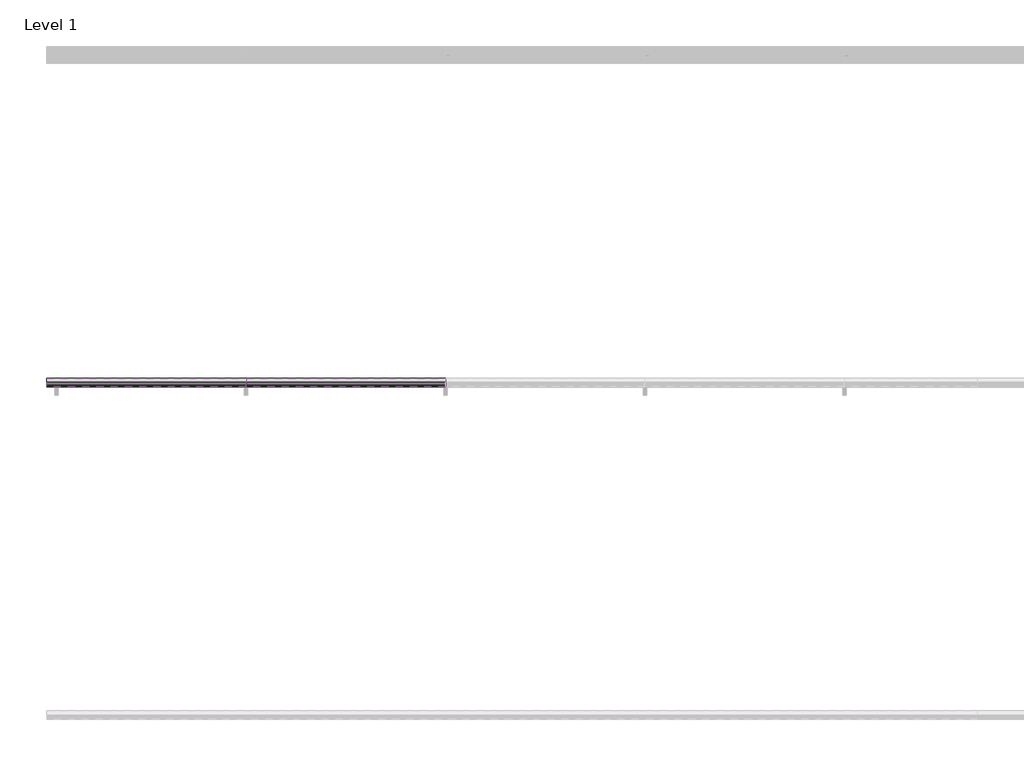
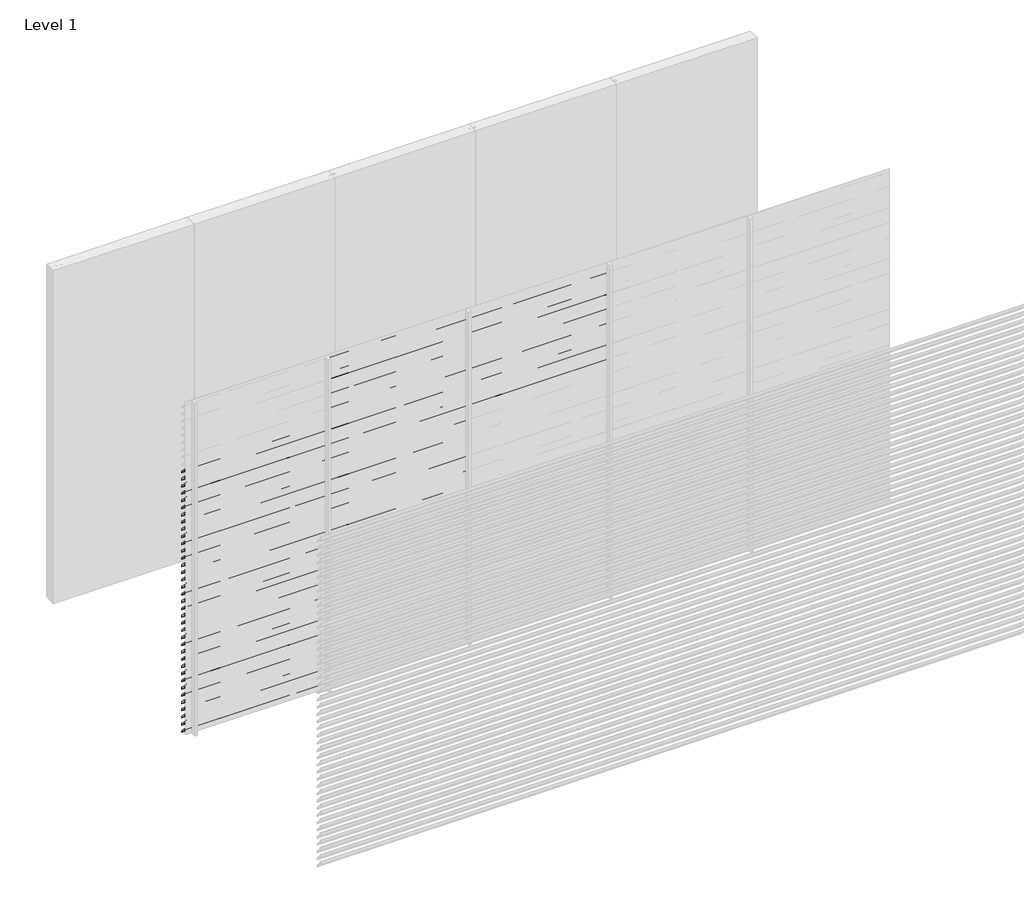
# One storey, part 8 of 12: 97 proxies.
"""IFC4 building model written with IfcOpenShell, lengths in millimetres."""

from ifc_helpers import new_model, si_unit, frame, origin, place, context, project, spatial, polyline, outline, extrude, element, save

model = new_model("IFC4")

# Units and contexts
model_context = context("Model", 3, world=origin())
ifc_project = project(units=[si_unit("LENGTHUNIT", "METRE", prefix="MILLI")], contexts=[model_context])

# Site, building, storey
site = spatial("IfcSite", under=ifc_project)
building = spatial("IfcBuilding", under=site)
storey = spatial("IfcBuildingStorey", under=building, Name="Level 1", Elevation=0.0)

# Proxies
placement = place(None, origin())
element("IfcBuildingElementProxy", 1, Name="Wall Sweeps", at=placement, inside=storey, context=model_context, shape_type="SweptSolid", body=[
    extrude(outline(polyline([(-5995.0, 2405.0), (-5995.0, 2395.7409854), (-5946.0, 2345.0), (-5946.0, 2329.0), (-5997.0, 2381.812046), (-5997.0, 2405.0), (-5995.0, 2405.0)])), frame((0.0, 0.0, 0.0), z_axis=(1.0, 0.0, 0.0), x_axis=(0.0, 1.0, 0.0)), (0.0, 0.0, 1.0), 1200.0),
])
element("IfcBuildingElementProxy", 2, Name="Wall Sweeps", at=placement, inside=storey, context=model_context, shape_type="SweptSolid", body=[
    extrude(outline(polyline([(-5995.0, 2340.0), (-5995.0, 2330.7409854), (-5946.0, 2280.0), (-5946.0, 2264.0), (-5997.0, 2316.812046), (-5997.0, 2340.0), (-5995.0, 2340.0)])), frame((0.0, 0.0, 0.0), z_axis=(1.0, 0.0, 0.0), x_axis=(0.0, 1.0, 0.0)), (0.0, 0.0, 1.0), 1200.0),
])
element("IfcBuildingElementProxy", 3, Name="Wall Sweeps", at=placement, inside=storey, context=model_context, shape_type="SweptSolid", body=[
    extrude(outline(polyline([(-5995.0, 2275.0), (-5995.0, 2265.7409854), (-5946.0, 2215.0), (-5946.0, 2199.0), (-5997.0, 2251.812046), (-5997.0, 2275.0), (-5995.0, 2275.0)])), frame((0.0, 0.0, 0.0), z_axis=(1.0, 0.0, 0.0), x_axis=(0.0, 1.0, 0.0)), (0.0, 0.0, 1.0), 1200.0),
])
element("IfcBuildingElementProxy", 4, Name="Wall Sweeps", at=placement, inside=storey, context=model_context, shape_type="SweptSolid", body=[
    extrude(outline(polyline([(-5995.0, 2210.0), (-5995.0, 2200.7409854), (-5946.0, 2150.0), (-5946.0, 2134.0), (-5997.0, 2186.812046), (-5997.0, 2210.0), (-5995.0, 2210.0)])), frame((0.0, 0.0, 0.0), z_axis=(1.0, 0.0, 0.0), x_axis=(0.0, 1.0, 0.0)), (0.0, 0.0, 1.0), 1200.0),
])
element("IfcBuildingElementProxy", 5, Name="Wall Sweeps", at=placement, inside=storey, context=model_context, shape_type="SweptSolid", body=[
    extrude(outline(polyline([(-5995.0, 2145.0), (-5995.0, 2135.7409854), (-5946.0, 2085.0), (-5946.0, 2069.0), (-5997.0, 2121.812046), (-5997.0, 2145.0), (-5995.0, 2145.0)])), frame((0.0, 0.0, 0.0), z_axis=(1.0, 0.0, 0.0), x_axis=(0.0, 1.0, 0.0)), (0.0, 0.0, 1.0), 1200.0),
])
element("IfcBuildingElementProxy", 6, Name="Wall Sweeps", at=placement, inside=storey, context=model_context, shape_type="SweptSolid", body=[
    extrude(outline(polyline([(-5995.0, 2080.0), (-5995.0, 2070.7409854), (-5946.0, 2020.0), (-5946.0, 2004.0), (-5997.0, 2056.812046), (-5997.0, 2080.0), (-5995.0, 2080.0)])), frame((0.0, 0.0, 0.0), z_axis=(1.0, 0.0, 0.0), x_axis=(0.0, 1.0, 0.0)), (0.0, 0.0, 1.0), 1200.0),
])
element("IfcBuildingElementProxy", 7, Name="Wall Sweeps", at=placement, inside=storey, context=model_context, shape_type="SweptSolid", body=[
    extrude(outline(polyline([(-5995.0, 2015.0), (-5995.0, 2005.7409854), (-5946.0, 1955.0), (-5946.0, 1939.0), (-5997.0, 1991.812046), (-5997.0, 2015.0), (-5995.0, 2015.0)])), frame((0.0, 0.0, 0.0), z_axis=(1.0, 0.0, 0.0), x_axis=(0.0, 1.0, 0.0)), (0.0, 0.0, 1.0), 1200.0),
])
element("IfcBuildingElementProxy", 8, Name="Wall Sweeps", at=placement, inside=storey, context=model_context, shape_type="SweptSolid", body=[
    extrude(outline(polyline([(-5995.0, 1950.0), (-5995.0, 1940.7409854), (-5946.0, 1890.0), (-5946.0, 1874.0), (-5997.0, 1926.812046), (-5997.0, 1950.0), (-5995.0, 1950.0)])), frame((0.0, 0.0, 0.0), z_axis=(1.0, 0.0, 0.0), x_axis=(0.0, 1.0, 0.0)), (0.0, 0.0, 1.0), 1200.0),
])
element("IfcBuildingElementProxy", 9, Name="Wall Sweeps", at=placement, inside=storey, context=model_context, shape_type="SweptSolid", body=[
    extrude(outline(polyline([(-5995.0, 1885.0), (-5995.0, 1875.7409854), (-5946.0, 1825.0), (-5946.0, 1809.0), (-5997.0, 1861.812046), (-5997.0, 1885.0), (-5995.0, 1885.0)])), frame((0.0, 0.0, 0.0), z_axis=(1.0, 0.0, 0.0), x_axis=(0.0, 1.0, 0.0)), (0.0, 0.0, 1.0), 1200.0),
])
element("IfcBuildingElementProxy", 10, Name="Wall Sweeps", at=placement, inside=storey, context=model_context, shape_type="SweptSolid", body=[
    extrude(outline(polyline([(-5995.0, 1820.0), (-5995.0, 1810.7409854), (-5946.0, 1760.0), (-5946.0, 1744.0), (-5997.0, 1796.812046), (-5997.0, 1820.0), (-5995.0, 1820.0)])), frame((0.0, 0.0, 0.0), z_axis=(1.0, 0.0, 0.0), x_axis=(0.0, 1.0, 0.0)), (0.0, 0.0, 1.0), 1200.0),
])
element("IfcBuildingElementProxy", 11, Name="Wall Sweeps", at=placement, inside=storey, context=model_context, shape_type="SweptSolid", body=[
    extrude(outline(polyline([(-5995.0, 1755.0), (-5995.0, 1745.7409854), (-5946.0, 1695.0), (-5946.0, 1679.0), (-5997.0, 1731.812046), (-5997.0, 1755.0), (-5995.0, 1755.0)])), frame((0.0, 0.0, 0.0), z_axis=(1.0, 0.0, 0.0), x_axis=(0.0, 1.0, 0.0)), (0.0, 0.0, 1.0), 1200.0),
])
element("IfcBuildingElementProxy", 12, Name="Wall Sweeps", at=placement, inside=storey, context=model_context, shape_type="SweptSolid", body=[
    extrude(outline(polyline([(-5995.0, 1690.0), (-5995.0, 1680.7409854), (-5946.0, 1630.0), (-5946.0, 1614.0), (-5997.0, 1666.812046), (-5997.0, 1690.0), (-5995.0, 1690.0)])), frame((0.0, 0.0, 0.0), z_axis=(1.0, 0.0, 0.0), x_axis=(0.0, 1.0, 0.0)), (0.0, 0.0, 1.0), 1200.0),
])
element("IfcBuildingElementProxy", 13, Name="Wall Sweeps", at=placement, inside=storey, context=model_context, shape_type="SweptSolid", body=[
    extrude(outline(polyline([(-5995.0, 1625.0), (-5995.0, 1615.7409854), (-5946.0, 1565.0), (-5946.0, 1549.0), (-5997.0, 1601.812046), (-5997.0, 1625.0), (-5995.0, 1625.0)])), frame((0.0, 0.0, 0.0), z_axis=(1.0, 0.0, 0.0), x_axis=(0.0, 1.0, 0.0)), (0.0, 0.0, 1.0), 1200.0),
])
element("IfcBuildingElementProxy", 14, Name="Wall Sweeps", at=placement, inside=storey, context=model_context, shape_type="SweptSolid", body=[
    extrude(outline(polyline([(-5995.0, 1560.0), (-5995.0, 1550.7409854), (-5946.0, 1500.0), (-5946.0, 1484.0), (-5997.0, 1536.812046), (-5997.0, 1560.0), (-5995.0, 1560.0)])), frame((0.0, 0.0, 0.0), z_axis=(1.0, 0.0, 0.0), x_axis=(0.0, 1.0, 0.0)), (0.0, 0.0, 1.0), 1200.0),
])
element("IfcBuildingElementProxy", 15, Name="Wall Sweeps", at=placement, inside=storey, context=model_context, shape_type="SweptSolid", body=[
    extrude(outline(polyline([(-5995.0, 1495.0), (-5995.0, 1485.7409854), (-5946.0, 1435.0), (-5946.0, 1419.0), (-5997.0, 1471.812046), (-5997.0, 1495.0), (-5995.0, 1495.0)])), frame((0.0, 0.0, 0.0), z_axis=(1.0, 0.0, 0.0), x_axis=(0.0, 1.0, 0.0)), (0.0, 0.0, 1.0), 1200.0),
])
element("IfcBuildingElementProxy", 16, Name="Wall Sweeps", at=placement, inside=storey, context=model_context, shape_type="SweptSolid", body=[
    extrude(outline(polyline([(-5995.0, 1430.0), (-5995.0, 1420.7409854), (-5946.0, 1370.0), (-5946.0, 1354.0), (-5997.0, 1406.812046), (-5997.0, 1430.0), (-5995.0, 1430.0)])), frame((0.0, 0.0, 0.0), z_axis=(1.0, 0.0, 0.0), x_axis=(0.0, 1.0, 0.0)), (0.0, 0.0, 1.0), 1200.0),
])
element("IfcBuildingElementProxy", 17, Name="Wall Sweeps", at=placement, inside=storey, context=model_context, shape_type="SweptSolid", body=[
    extrude(outline(polyline([(-5995.0, 1365.0), (-5995.0, 1355.7409854), (-5946.0, 1305.0), (-5946.0, 1289.0), (-5997.0, 1341.812046), (-5997.0, 1365.0), (-5995.0, 1365.0)])), frame((0.0, 0.0, 0.0), z_axis=(1.0, 0.0, 0.0), x_axis=(0.0, 1.0, 0.0)), (0.0, 0.0, 1.0), 1200.0),
])
element("IfcBuildingElementProxy", 18, Name="Wall Sweeps", at=placement, inside=storey, context=model_context, shape_type="SweptSolid", body=[
    extrude(outline(polyline([(-5995.0, 1300.0), (-5995.0, 1290.7409854), (-5946.0, 1240.0), (-5946.0, 1224.0), (-5997.0, 1276.812046), (-5997.0, 1300.0), (-5995.0, 1300.0)])), frame((0.0, 0.0, 0.0), z_axis=(1.0, 0.0, 0.0), x_axis=(0.0, 1.0, 0.0)), (0.0, 0.0, 1.0), 1200.0),
])
element("IfcBuildingElementProxy", 19, Name="Wall Sweeps", at=placement, inside=storey, context=model_context, shape_type="SweptSolid", body=[
    extrude(outline(polyline([(-5995.0, 1235.0), (-5995.0, 1225.7409854), (-5946.0, 1175.0), (-5946.0, 1159.0), (-5997.0, 1211.812046), (-5997.0, 1235.0), (-5995.0, 1235.0)])), frame((0.0, 0.0, 0.0), z_axis=(1.0, 0.0, 0.0), x_axis=(0.0, 1.0, 0.0)), (0.0, 0.0, 1.0), 1200.0),
])
element("IfcBuildingElementProxy", 20, Name="Wall Sweeps", at=placement, inside=storey, context=model_context, shape_type="SweptSolid", body=[
    extrude(outline(polyline([(-5995.0, 1170.0), (-5995.0, 1160.7409854), (-5946.0, 1110.0), (-5946.0, 1094.0), (-5997.0, 1146.812046), (-5997.0, 1170.0), (-5995.0, 1170.0)])), frame((0.0, 0.0, 0.0), z_axis=(1.0, 0.0, 0.0), x_axis=(0.0, 1.0, 0.0)), (0.0, 0.0, 1.0), 1200.0),
])
element("IfcBuildingElementProxy", 21, Name="Wall Sweeps", at=placement, inside=storey, context=model_context, shape_type="SweptSolid", body=[
    extrude(outline(polyline([(-5995.0, 1105.0), (-5995.0, 1095.7409854), (-5946.0, 1045.0), (-5946.0, 1029.0), (-5997.0, 1081.812046), (-5997.0, 1105.0), (-5995.0, 1105.0)])), frame((0.0, 0.0, 0.0), z_axis=(1.0, 0.0, 0.0), x_axis=(0.0, 1.0, 0.0)), (0.0, 0.0, 1.0), 1200.0),
])
element("IfcBuildingElementProxy", 22, Name="Wall Sweeps", at=placement, inside=storey, context=model_context, shape_type="SweptSolid", body=[
    extrude(outline(polyline([(-5995.0, 1040.0), (-5995.0, 1030.7409854), (-5946.0, 980.0), (-5946.0, 964.0), (-5997.0, 1016.812046), (-5997.0, 1040.0), (-5995.0, 1040.0)])), frame((0.0, 0.0, 0.0), z_axis=(1.0, 0.0, 0.0), x_axis=(0.0, 1.0, 0.0)), (0.0, 0.0, 1.0), 1200.0),
])
element("IfcBuildingElementProxy", 23, Name="Wall Sweeps", at=placement, inside=storey, context=model_context, shape_type="SweptSolid", body=[
    extrude(outline(polyline([(-5995.0, 975.0), (-5995.0, 965.7409854), (-5946.0, 915.0), (-5946.0, 899.0), (-5997.0, 951.812046), (-5997.0, 975.0), (-5995.0, 975.0)])), frame((0.0, 0.0, 0.0), z_axis=(1.0, 0.0, 0.0), x_axis=(0.0, 1.0, 0.0)), (0.0, 0.0, 1.0), 1200.0),
])
element("IfcBuildingElementProxy", 24, Name="Wall Sweeps", at=placement, inside=storey, context=model_context, shape_type="SweptSolid", body=[
    extrude(outline(polyline([(-5995.0, 910.0), (-5995.0, 900.7409854), (-5946.0, 850.0), (-5946.0, 834.0), (-5997.0, 886.812046), (-5997.0, 910.0), (-5995.0, 910.0)])), frame((0.0, 0.0, 0.0), z_axis=(1.0, 0.0, 0.0), x_axis=(0.0, 1.0, 0.0)), (0.0, 0.0, 1.0), 1200.0),
])
element("IfcBuildingElementProxy", 25, Name="Wall Sweeps", at=placement, inside=storey, context=model_context, shape_type="SweptSolid", body=[
    extrude(outline(polyline([(-5995.0, 845.0), (-5995.0, 835.7409854), (-5946.0, 785.0), (-5946.0, 769.0), (-5997.0, 821.812046), (-5997.0, 845.0), (-5995.0, 845.0)])), frame((0.0, 0.0, 0.0), z_axis=(1.0, 0.0, 0.0), x_axis=(0.0, 1.0, 0.0)), (0.0, 0.0, 1.0), 1200.0),
])
element("IfcBuildingElementProxy", 26, Name="Wall Sweeps", at=placement, inside=storey, context=model_context, shape_type="SweptSolid", body=[
    extrude(outline(polyline([(-5995.0, 780.0), (-5995.0, 770.7409854), (-5946.0, 720.0), (-5946.0, 704.0), (-5997.0, 756.812046), (-5997.0, 780.0), (-5995.0, 780.0)])), frame((0.0, 0.0, 0.0), z_axis=(1.0, 0.0, 0.0), x_axis=(0.0, 1.0, 0.0)), (0.0, 0.0, 1.0), 1200.0),
])
element("IfcBuildingElementProxy", 27, Name="Wall Sweeps", at=placement, inside=storey, context=model_context, shape_type="SweptSolid", body=[
    extrude(outline(polyline([(-5995.0, 715.0), (-5995.0, 705.7409854), (-5946.0, 655.0), (-5946.0, 639.0), (-5997.0, 691.812046), (-5997.0, 715.0), (-5995.0, 715.0)])), frame((0.0, 0.0, 0.0), z_axis=(1.0, 0.0, 0.0), x_axis=(0.0, 1.0, 0.0)), (0.0, 0.0, 1.0), 1200.0),
])
element("IfcBuildingElementProxy", 28, Name="Wall Sweeps", at=placement, inside=storey, context=model_context, shape_type="SweptSolid", body=[
    extrude(outline(polyline([(-5995.0, 650.0), (-5995.0, 640.7409854), (-5946.0, 590.0), (-5946.0, 574.0), (-5997.0, 626.812046), (-5997.0, 650.0), (-5995.0, 650.0)])), frame((0.0, 0.0, 0.0), z_axis=(1.0, 0.0, 0.0), x_axis=(0.0, 1.0, 0.0)), (0.0, 0.0, 1.0), 1200.0),
])
element("IfcBuildingElementProxy", 29, Name="Wall Sweeps", at=placement, inside=storey, context=model_context, shape_type="SweptSolid", body=[
    extrude(outline(polyline([(-5995.0, 585.0), (-5995.0, 575.7409854), (-5946.0, 525.0), (-5946.0, 509.0), (-5997.0, 561.812046), (-5997.0, 585.0), (-5995.0, 585.0)])), frame((0.0, 0.0, 0.0), z_axis=(1.0, 0.0, 0.0), x_axis=(0.0, 1.0, 0.0)), (0.0, 0.0, 1.0), 1200.0),
])
element("IfcBuildingElementProxy", 30, Name="Wall Sweeps", at=placement, inside=storey, context=model_context, shape_type="SweptSolid", body=[
    extrude(outline(polyline([(-5995.0, 520.0), (-5995.0, 510.7409854), (-5946.0, 460.0), (-5946.0, 444.0), (-5997.0, 496.812046), (-5997.0, 520.0), (-5995.0, 520.0)])), frame((0.0, 0.0, 0.0), z_axis=(1.0, 0.0, 0.0), x_axis=(0.0, 1.0, 0.0)), (0.0, 0.0, 1.0), 1200.0),
])
element("IfcBuildingElementProxy", 31, Name="Wall Sweeps", at=placement, inside=storey, context=model_context, shape_type="SweptSolid", body=[
    extrude(outline(polyline([(-5995.0, 455.0), (-5995.0, 445.7409854), (-5946.0, 395.0), (-5946.0, 379.0), (-5997.0, 431.812046), (-5997.0, 455.0), (-5995.0, 455.0)])), frame((0.0, 0.0, 0.0), z_axis=(1.0, 0.0, 0.0), x_axis=(0.0, 1.0, 0.0)), (0.0, 0.0, 1.0), 1200.0),
])
element("IfcBuildingElementProxy", 32, Name="Wall Sweeps", at=placement, inside=storey, context=model_context, shape_type="SweptSolid", body=[
    extrude(outline(polyline([(-5995.0, 390.0), (-5995.0, 380.7409854), (-5946.0, 330.0), (-5946.0, 314.0), (-5997.0, 366.812046), (-5997.0, 390.0), (-5995.0, 390.0)])), frame((0.0, 0.0, 0.0), z_axis=(1.0, 0.0, 0.0), x_axis=(0.0, 1.0, 0.0)), (0.0, 0.0, 1.0), 1200.0),
])
element("IfcBuildingElementProxy", 33, Name="Wall Sweeps", at=placement, inside=storey, context=model_context, shape_type="SweptSolid", body=[
    extrude(outline(polyline([(-5995.0, 325.0), (-5995.0, 315.7409854), (-5946.0, 265.0), (-5946.0, 249.0), (-5997.0, 301.812046), (-5997.0, 325.0), (-5995.0, 325.0)])), frame((0.0, 0.0, 0.0), z_axis=(1.0, 0.0, 0.0), x_axis=(0.0, 1.0, 0.0)), (0.0, 0.0, 1.0), 1200.0),
])
element("IfcBuildingElementProxy", 34, Name="Wall Sweeps", at=placement, inside=storey, context=model_context, shape_type="SweptSolid", body=[
    extrude(outline(polyline([(-5995.0, 260.0), (-5995.0, 250.7409854), (-5946.0, 200.0), (-5946.0, 184.0), (-5997.0, 236.812046), (-5997.0, 260.0), (-5995.0, 260.0)])), frame((0.0, 0.0, 0.0), z_axis=(1.0, 0.0, 0.0), x_axis=(0.0, 1.0, 0.0)), (0.0, 0.0, 1.0), 1200.0),
])
element("IfcBuildingElementProxy", 35, Name="Wall Sweeps", at=placement, inside=storey, context=model_context, shape_type="SweptSolid", body=[
    extrude(outline(polyline([(-5995.0, 195.0), (-5995.0, 185.7409854), (-5946.0, 135.0), (-5946.0, 119.0), (-5997.0, 171.812046), (-5997.0, 195.0), (-5995.0, 195.0)])), frame((0.0, 0.0, 0.0), z_axis=(1.0, 0.0, 0.0), x_axis=(0.0, 1.0, 0.0)), (0.0, 0.0, 1.0), 1200.0),
])
element("IfcBuildingElementProxy", 36, Name="Wall Sweeps", at=placement, inside=storey, context=model_context, shape_type="SweptSolid", body=[
    extrude(outline(polyline([(-5995.0, 130.0), (-5995.0, 120.7409854), (-5946.0, 70.0), (-5946.0, 54.0), (-5997.0, 106.812046), (-5997.0, 130.0), (-5995.0, 130.0)])), frame((0.0, 0.0, 0.0), z_axis=(1.0, 0.0, 0.0), x_axis=(0.0, 1.0, 0.0)), (0.0, 0.0, 1.0), 1200.0),
])
element("IfcBuildingElementProxy", 37, Name="Wall Sweeps", at=placement, inside=storey, context=model_context, shape_type="SweptSolid", body=[
    extrude(outline(polyline([(-5995.0, 65.0), (-5995.0, 55.7409854), (-5946.0, 5.0), (-5946.0, -11.0), (-5997.0, 41.812046), (-5997.0, 65.0), (-5995.0, 65.0)])), frame((0.0, 0.0, 0.0), z_axis=(1.0, 0.0, 0.0), x_axis=(0.0, 1.0, 0.0)), (0.0, 0.0, 1.0), 1200.0),
])
element("IfcBuildingElementProxy", 38, Name="Wall Sweeps", at=placement, inside=storey, context=model_context, shape_type="SweptSolid", body=[
    extrude(outline(polyline([(-5995.0, 2990.0), (-5995.0, 2980.7409854), (-5946.0, 2930.0), (-5946.0, 2914.0), (-5997.0, 2966.812046), (-5997.0, 2990.0), (-5995.0, 2990.0)])), frame((1200.0, 0.0, 0.0), z_axis=(1.0, 0.0, 0.0), x_axis=(0.0, 1.0, 0.0)), (0.0, 0.0, 1.0), 1200.0),
])
element("IfcBuildingElementProxy", 39, Name="Wall Sweeps", at=placement, inside=storey, context=model_context, shape_type="SweptSolid", body=[
    extrude(outline(polyline([(-5995.0, 2925.0), (-5995.0, 2915.7409854), (-5946.0, 2865.0), (-5946.0, 2849.0), (-5997.0, 2901.812046), (-5997.0, 2925.0), (-5995.0, 2925.0)])), frame((1200.0, 0.0, 0.0), z_axis=(1.0, 0.0, 0.0), x_axis=(0.0, 1.0, 0.0)), (0.0, 0.0, 1.0), 1200.0),
])
element("IfcBuildingElementProxy", 40, Name="Wall Sweeps", at=placement, inside=storey, context=model_context, shape_type="SweptSolid", body=[
    extrude(outline(polyline([(-5995.0, 2860.0), (-5995.0, 2850.7409854), (-5946.0, 2800.0), (-5946.0, 2784.0), (-5997.0, 2836.812046), (-5997.0, 2860.0), (-5995.0, 2860.0)])), frame((1200.0, 0.0, 0.0), z_axis=(1.0, 0.0, 0.0), x_axis=(0.0, 1.0, 0.0)), (0.0, 0.0, 1.0), 1200.0),
])
element("IfcBuildingElementProxy", 41, Name="Wall Sweeps", at=placement, inside=storey, context=model_context, shape_type="SweptSolid", body=[
    extrude(outline(polyline([(-5995.0, 2795.0), (-5995.0, 2785.7409854), (-5946.0, 2735.0), (-5946.0, 2719.0), (-5997.0, 2771.812046), (-5997.0, 2795.0), (-5995.0, 2795.0)])), frame((1200.0, 0.0, 0.0), z_axis=(1.0, 0.0, 0.0), x_axis=(0.0, 1.0, 0.0)), (0.0, 0.0, 1.0), 1200.0),
])
element("IfcBuildingElementProxy", 42, Name="Wall Sweeps", at=placement, inside=storey, context=model_context, shape_type="SweptSolid", body=[
    extrude(outline(polyline([(-5995.0, 2730.0), (-5995.0, 2720.7409854), (-5946.0, 2670.0), (-5946.0, 2654.0), (-5997.0, 2706.812046), (-5997.0, 2730.0), (-5995.0, 2730.0)])), frame((1200.0, 0.0, 0.0), z_axis=(1.0, 0.0, 0.0), x_axis=(0.0, 1.0, 0.0)), (0.0, 0.0, 1.0), 1200.0),
])
element("IfcBuildingElementProxy", 43, Name="Wall Sweeps", at=placement, inside=storey, context=model_context, shape_type="SweptSolid", body=[
    extrude(outline(polyline([(-5995.0, 2665.0), (-5995.0, 2655.7409854), (-5946.0, 2605.0), (-5946.0, 2589.0), (-5997.0, 2641.812046), (-5997.0, 2665.0), (-5995.0, 2665.0)])), frame((1200.0, 0.0, 0.0), z_axis=(1.0, 0.0, 0.0), x_axis=(0.0, 1.0, 0.0)), (0.0, 0.0, 1.0), 1200.0),
])
element("IfcBuildingElementProxy", 44, Name="Wall Sweeps", at=placement, inside=storey, context=model_context, shape_type="SweptSolid", body=[
    extrude(outline(polyline([(-5995.0, 2600.0), (-5995.0, 2590.7409854), (-5946.0, 2540.0), (-5946.0, 2524.0), (-5997.0, 2576.812046), (-5997.0, 2600.0), (-5995.0, 2600.0)])), frame((1200.0, 0.0, 0.0), z_axis=(1.0, 0.0, 0.0), x_axis=(0.0, 1.0, 0.0)), (0.0, 0.0, 1.0), 1200.0),
])
element("IfcBuildingElementProxy", 45, Name="Wall Sweeps", at=placement, inside=storey, context=model_context, shape_type="SweptSolid", body=[
    extrude(outline(polyline([(-5995.0, 2535.0), (-5995.0, 2525.7409854), (-5946.0, 2475.0), (-5946.0, 2459.0), (-5997.0, 2511.812046), (-5997.0, 2535.0), (-5995.0, 2535.0)])), frame((1200.0, 0.0, 0.0), z_axis=(1.0, 0.0, 0.0), x_axis=(0.0, 1.0, 0.0)), (0.0, 0.0, 1.0), 1200.0),
])
element("IfcBuildingElementProxy", 46, Name="Wall Sweeps", at=placement, inside=storey, context=model_context, shape_type="SweptSolid", body=[
    extrude(outline(polyline([(-5995.0, 2470.0), (-5995.0, 2460.7409854), (-5946.0, 2410.0), (-5946.0, 2394.0), (-5997.0, 2446.812046), (-5997.0, 2470.0), (-5995.0, 2470.0)])), frame((1200.0, 0.0, 0.0), z_axis=(1.0, 0.0, 0.0), x_axis=(0.0, 1.0, 0.0)), (0.0, 0.0, 1.0), 1200.0),
])
element("IfcBuildingElementProxy", 47, Name="Wall Sweeps", at=placement, inside=storey, context=model_context, shape_type="SweptSolid", body=[
    extrude(outline(polyline([(-5995.0, 2405.0), (-5995.0, 2395.7409854), (-5946.0, 2345.0), (-5946.0, 2329.0), (-5997.0, 2381.812046), (-5997.0, 2405.0), (-5995.0, 2405.0)])), frame((1200.0, 0.0, 0.0), z_axis=(1.0, 0.0, 0.0), x_axis=(0.0, 1.0, 0.0)), (0.0, 0.0, 1.0), 1200.0),
])
element("IfcBuildingElementProxy", 48, Name="Wall Sweeps", at=placement, inside=storey, context=model_context, shape_type="SweptSolid", body=[
    extrude(outline(polyline([(-5995.0, 2340.0), (-5995.0, 2330.7409854), (-5946.0, 2280.0), (-5946.0, 2264.0), (-5997.0, 2316.812046), (-5997.0, 2340.0), (-5995.0, 2340.0)])), frame((1200.0, 0.0, 0.0), z_axis=(1.0, 0.0, 0.0), x_axis=(0.0, 1.0, 0.0)), (0.0, 0.0, 1.0), 1200.0),
])
element("IfcBuildingElementProxy", 49, Name="Wall Sweeps", at=placement, inside=storey, context=model_context, shape_type="SweptSolid", body=[
    extrude(outline(polyline([(-5995.0, 2275.0), (-5995.0, 2265.7409854), (-5946.0, 2215.0), (-5946.0, 2199.0), (-5997.0, 2251.812046), (-5997.0, 2275.0), (-5995.0, 2275.0)])), frame((1200.0, 0.0, 0.0), z_axis=(1.0, 0.0, 0.0), x_axis=(0.0, 1.0, 0.0)), (0.0, 0.0, 1.0), 1200.0),
])
element("IfcBuildingElementProxy", 50, Name="Wall Sweeps", at=placement, inside=storey, context=model_context, shape_type="SweptSolid", body=[
    extrude(outline(polyline([(-5995.0, 2210.0), (-5995.0, 2200.7409854), (-5946.0, 2150.0), (-5946.0, 2134.0), (-5997.0, 2186.812046), (-5997.0, 2210.0), (-5995.0, 2210.0)])), frame((1200.0, 0.0, 0.0), z_axis=(1.0, 0.0, 0.0), x_axis=(0.0, 1.0, 0.0)), (0.0, 0.0, 1.0), 1200.0),
])
element("IfcBuildingElementProxy", 51, Name="Wall Sweeps", at=placement, inside=storey, context=model_context, shape_type="SweptSolid", body=[
    extrude(outline(polyline([(-5995.0, 2145.0), (-5995.0, 2135.7409854), (-5946.0, 2085.0), (-5946.0, 2069.0), (-5997.0, 2121.812046), (-5997.0, 2145.0), (-5995.0, 2145.0)])), frame((1200.0, 0.0, 0.0), z_axis=(1.0, 0.0, 0.0), x_axis=(0.0, 1.0, 0.0)), (0.0, 0.0, 1.0), 1200.0),
])
element("IfcBuildingElementProxy", 52, Name="Wall Sweeps", at=placement, inside=storey, context=model_context, shape_type="SweptSolid", body=[
    extrude(outline(polyline([(-5995.0, 2080.0), (-5995.0, 2070.7409854), (-5946.0, 2020.0), (-5946.0, 2004.0), (-5997.0, 2056.812046), (-5997.0, 2080.0), (-5995.0, 2080.0)])), frame((1200.0, 0.0, 0.0), z_axis=(1.0, 0.0, 0.0), x_axis=(0.0, 1.0, 0.0)), (0.0, 0.0, 1.0), 1200.0),
])
element("IfcBuildingElementProxy", 53, Name="Wall Sweeps", at=placement, inside=storey, context=model_context, shape_type="SweptSolid", body=[
    extrude(outline(polyline([(-5995.0, 2015.0), (-5995.0, 2005.7409854), (-5946.0, 1955.0), (-5946.0, 1939.0), (-5997.0, 1991.812046), (-5997.0, 2015.0), (-5995.0, 2015.0)])), frame((1200.0, 0.0, 0.0), z_axis=(1.0, 0.0, 0.0), x_axis=(0.0, 1.0, 0.0)), (0.0, 0.0, 1.0), 1200.0),
])
element("IfcBuildingElementProxy", 54, Name="Wall Sweeps", at=placement, inside=storey, context=model_context, shape_type="SweptSolid", body=[
    extrude(outline(polyline([(-5995.0, 1950.0), (-5995.0, 1940.7409854), (-5946.0, 1890.0), (-5946.0, 1874.0), (-5997.0, 1926.812046), (-5997.0, 1950.0), (-5995.0, 1950.0)])), frame((1200.0, 0.0, 0.0), z_axis=(1.0, 0.0, 0.0), x_axis=(0.0, 1.0, 0.0)), (0.0, 0.0, 1.0), 1200.0),
])
element("IfcBuildingElementProxy", 55, Name="Wall Sweeps", at=placement, inside=storey, context=model_context, shape_type="SweptSolid", body=[
    extrude(outline(polyline([(-5995.0, 1885.0), (-5995.0, 1875.7409854), (-5946.0, 1825.0), (-5946.0, 1809.0), (-5997.0, 1861.812046), (-5997.0, 1885.0), (-5995.0, 1885.0)])), frame((1200.0, 0.0, 0.0), z_axis=(1.0, 0.0, 0.0), x_axis=(0.0, 1.0, 0.0)), (0.0, 0.0, 1.0), 1200.0),
])
element("IfcBuildingElementProxy", 56, Name="Wall Sweeps", at=placement, inside=storey, context=model_context, shape_type="SweptSolid", body=[
    extrude(outline(polyline([(-5995.0, 1820.0), (-5995.0, 1810.7409854), (-5946.0, 1760.0), (-5946.0, 1744.0), (-5997.0, 1796.812046), (-5997.0, 1820.0), (-5995.0, 1820.0)])), frame((1200.0, 0.0, 0.0), z_axis=(1.0, 0.0, 0.0), x_axis=(0.0, 1.0, 0.0)), (0.0, 0.0, 1.0), 1200.0),
])
element("IfcBuildingElementProxy", 57, Name="Wall Sweeps", at=placement, inside=storey, context=model_context, shape_type="SweptSolid", body=[
    extrude(outline(polyline([(-5995.0, 1755.0), (-5995.0, 1745.7409854), (-5946.0, 1695.0), (-5946.0, 1679.0), (-5997.0, 1731.812046), (-5997.0, 1755.0), (-5995.0, 1755.0)])), frame((1200.0, 0.0, 0.0), z_axis=(1.0, 0.0, 0.0), x_axis=(0.0, 1.0, 0.0)), (0.0, 0.0, 1.0), 1200.0),
])
element("IfcBuildingElementProxy", 58, Name="Wall Sweeps", at=placement, inside=storey, context=model_context, shape_type="SweptSolid", body=[
    extrude(outline(polyline([(-5995.0, 1690.0), (-5995.0, 1680.7409854), (-5946.0, 1630.0), (-5946.0, 1614.0), (-5997.0, 1666.812046), (-5997.0, 1690.0), (-5995.0, 1690.0)])), frame((1200.0, 0.0, 0.0), z_axis=(1.0, 0.0, 0.0), x_axis=(0.0, 1.0, 0.0)), (0.0, 0.0, 1.0), 1200.0),
])
element("IfcBuildingElementProxy", 59, Name="Wall Sweeps", at=placement, inside=storey, context=model_context, shape_type="SweptSolid", body=[
    extrude(outline(polyline([(-5995.0, 1625.0), (-5995.0, 1615.7409854), (-5946.0, 1565.0), (-5946.0, 1549.0), (-5997.0, 1601.812046), (-5997.0, 1625.0), (-5995.0, 1625.0)])), frame((1200.0, 0.0, 0.0), z_axis=(1.0, 0.0, 0.0), x_axis=(0.0, 1.0, 0.0)), (0.0, 0.0, 1.0), 1200.0),
])
element("IfcBuildingElementProxy", 60, Name="Wall Sweeps", at=placement, inside=storey, context=model_context, shape_type="SweptSolid", body=[
    extrude(outline(polyline([(-5995.0, 1560.0), (-5995.0, 1550.7409854), (-5946.0, 1500.0), (-5946.0, 1484.0), (-5997.0, 1536.812046), (-5997.0, 1560.0), (-5995.0, 1560.0)])), frame((1200.0, 0.0, 0.0), z_axis=(1.0, 0.0, 0.0), x_axis=(0.0, 1.0, 0.0)), (0.0, 0.0, 1.0), 1200.0),
])
element("IfcBuildingElementProxy", 61, Name="Wall Sweeps", at=placement, inside=storey, context=model_context, shape_type="SweptSolid", body=[
    extrude(outline(polyline([(-5995.0, 1495.0), (-5995.0, 1485.7409854), (-5946.0, 1435.0), (-5946.0, 1419.0), (-5997.0, 1471.812046), (-5997.0, 1495.0), (-5995.0, 1495.0)])), frame((1200.0, 0.0, 0.0), z_axis=(1.0, 0.0, 0.0), x_axis=(0.0, 1.0, 0.0)), (0.0, 0.0, 1.0), 1200.0),
])
element("IfcBuildingElementProxy", 62, Name="Wall Sweeps", at=placement, inside=storey, context=model_context, shape_type="SweptSolid", body=[
    extrude(outline(polyline([(-5995.0, 1430.0), (-5995.0, 1420.7409854), (-5946.0, 1370.0), (-5946.0, 1354.0), (-5997.0, 1406.812046), (-5997.0, 1430.0), (-5995.0, 1430.0)])), frame((1200.0, 0.0, 0.0), z_axis=(1.0, 0.0, 0.0), x_axis=(0.0, 1.0, 0.0)), (0.0, 0.0, 1.0), 1200.0),
])
element("IfcBuildingElementProxy", 63, Name="Wall Sweeps", at=placement, inside=storey, context=model_context, shape_type="SweptSolid", body=[
    extrude(outline(polyline([(-5995.0, 1365.0), (-5995.0, 1355.7409854), (-5946.0, 1305.0), (-5946.0, 1289.0), (-5997.0, 1341.812046), (-5997.0, 1365.0), (-5995.0, 1365.0)])), frame((1200.0, 0.0, 0.0), z_axis=(1.0, 0.0, 0.0), x_axis=(0.0, 1.0, 0.0)), (0.0, 0.0, 1.0), 1200.0),
])
element("IfcBuildingElementProxy", 64, Name="Wall Sweeps", at=placement, inside=storey, context=model_context, shape_type="SweptSolid", body=[
    extrude(outline(polyline([(-5995.0, 1300.0), (-5995.0, 1290.7409854), (-5946.0, 1240.0), (-5946.0, 1224.0), (-5997.0, 1276.812046), (-5997.0, 1300.0), (-5995.0, 1300.0)])), frame((1200.0, 0.0, 0.0), z_axis=(1.0, 0.0, 0.0), x_axis=(0.0, 1.0, 0.0)), (0.0, 0.0, 1.0), 1200.0),
])
element("IfcBuildingElementProxy", 65, Name="Wall Sweeps", at=placement, inside=storey, context=model_context, shape_type="SweptSolid", body=[
    extrude(outline(polyline([(-5995.0, 1235.0), (-5995.0, 1225.7409854), (-5946.0, 1175.0), (-5946.0, 1159.0), (-5997.0, 1211.812046), (-5997.0, 1235.0), (-5995.0, 1235.0)])), frame((1200.0, 0.0, 0.0), z_axis=(1.0, 0.0, 0.0), x_axis=(0.0, 1.0, 0.0)), (0.0, 0.0, 1.0), 1200.0),
])
element("IfcBuildingElementProxy", 66, Name="Wall Sweeps", at=placement, inside=storey, context=model_context, shape_type="SweptSolid", body=[
    extrude(outline(polyline([(-5995.0, 1170.0), (-5995.0, 1160.7409854), (-5946.0, 1110.0), (-5946.0, 1094.0), (-5997.0, 1146.812046), (-5997.0, 1170.0), (-5995.0, 1170.0)])), frame((1200.0, 0.0, 0.0), z_axis=(1.0, 0.0, 0.0), x_axis=(0.0, 1.0, 0.0)), (0.0, 0.0, 1.0), 1200.0),
])
element("IfcBuildingElementProxy", 67, Name="Wall Sweeps", at=placement, inside=storey, context=model_context, shape_type="SweptSolid", body=[
    extrude(outline(polyline([(-5995.0, 1105.0), (-5995.0, 1095.7409854), (-5946.0, 1045.0), (-5946.0, 1029.0), (-5997.0, 1081.812046), (-5997.0, 1105.0), (-5995.0, 1105.0)])), frame((1200.0, 0.0, 0.0), z_axis=(1.0, 0.0, 0.0), x_axis=(0.0, 1.0, 0.0)), (0.0, 0.0, 1.0), 1200.0),
])
element("IfcBuildingElementProxy", 68, Name="Wall Sweeps", at=placement, inside=storey, context=model_context, shape_type="SweptSolid", body=[
    extrude(outline(polyline([(-5995.0, 1040.0), (-5995.0, 1030.7409854), (-5946.0, 980.0), (-5946.0, 964.0), (-5997.0, 1016.812046), (-5997.0, 1040.0), (-5995.0, 1040.0)])), frame((1200.0, 0.0, 0.0), z_axis=(1.0, 0.0, 0.0), x_axis=(0.0, 1.0, 0.0)), (0.0, 0.0, 1.0), 1200.0),
])
element("IfcBuildingElementProxy", 69, Name="Wall Sweeps", at=placement, inside=storey, context=model_context, shape_type="SweptSolid", body=[
    extrude(outline(polyline([(-5995.0, 975.0), (-5995.0, 965.7409854), (-5946.0, 915.0), (-5946.0, 899.0), (-5997.0, 951.812046), (-5997.0, 975.0), (-5995.0, 975.0)])), frame((1200.0, 0.0, 0.0), z_axis=(1.0, 0.0, 0.0), x_axis=(0.0, 1.0, 0.0)), (0.0, 0.0, 1.0), 1200.0),
])
element("IfcBuildingElementProxy", 70, Name="Wall Sweeps", at=placement, inside=storey, context=model_context, shape_type="SweptSolid", body=[
    extrude(outline(polyline([(-5995.0, 910.0), (-5995.0, 900.7409854), (-5946.0, 850.0), (-5946.0, 834.0), (-5997.0, 886.812046), (-5997.0, 910.0), (-5995.0, 910.0)])), frame((1200.0, 0.0, 0.0), z_axis=(1.0, 0.0, 0.0), x_axis=(0.0, 1.0, 0.0)), (0.0, 0.0, 1.0), 1200.0),
])
element("IfcBuildingElementProxy", 71, Name="Wall Sweeps", at=placement, inside=storey, context=model_context, shape_type="SweptSolid", body=[
    extrude(outline(polyline([(-5995.0, 845.0), (-5995.0, 835.7409854), (-5946.0, 785.0), (-5946.0, 769.0), (-5997.0, 821.812046), (-5997.0, 845.0), (-5995.0, 845.0)])), frame((1200.0, 0.0, 0.0), z_axis=(1.0, 0.0, 0.0), x_axis=(0.0, 1.0, 0.0)), (0.0, 0.0, 1.0), 1200.0),
])
element("IfcBuildingElementProxy", 72, Name="Wall Sweeps", at=placement, inside=storey, context=model_context, shape_type="SweptSolid", body=[
    extrude(outline(polyline([(-5995.0, 780.0), (-5995.0, 770.7409854), (-5946.0, 720.0), (-5946.0, 704.0), (-5997.0, 756.812046), (-5997.0, 780.0), (-5995.0, 780.0)])), frame((1200.0, 0.0, 0.0), z_axis=(1.0, 0.0, 0.0), x_axis=(0.0, 1.0, 0.0)), (0.0, 0.0, 1.0), 1200.0),
])
element("IfcBuildingElementProxy", 73, Name="Wall Sweeps", at=placement, inside=storey, context=model_context, shape_type="SweptSolid", body=[
    extrude(outline(polyline([(-5995.0, 715.0), (-5995.0, 705.7409854), (-5946.0, 655.0), (-5946.0, 639.0), (-5997.0, 691.812046), (-5997.0, 715.0), (-5995.0, 715.0)])), frame((1200.0, 0.0, 0.0), z_axis=(1.0, 0.0, 0.0), x_axis=(0.0, 1.0, 0.0)), (0.0, 0.0, 1.0), 1200.0),
])
element("IfcBuildingElementProxy", 74, Name="Wall Sweeps", at=placement, inside=storey, context=model_context, shape_type="SweptSolid", body=[
    extrude(outline(polyline([(-5995.0, 650.0), (-5995.0, 640.7409854), (-5946.0, 590.0), (-5946.0, 574.0), (-5997.0, 626.812046), (-5997.0, 650.0), (-5995.0, 650.0)])), frame((1200.0, 0.0, 0.0), z_axis=(1.0, 0.0, 0.0), x_axis=(0.0, 1.0, 0.0)), (0.0, 0.0, 1.0), 1200.0),
])
element("IfcBuildingElementProxy", 75, Name="Wall Sweeps", at=placement, inside=storey, context=model_context, shape_type="SweptSolid", body=[
    extrude(outline(polyline([(-5995.0, 585.0), (-5995.0, 575.7409854), (-5946.0, 525.0), (-5946.0, 509.0), (-5997.0, 561.812046), (-5997.0, 585.0), (-5995.0, 585.0)])), frame((1200.0, 0.0, 0.0), z_axis=(1.0, 0.0, 0.0), x_axis=(0.0, 1.0, 0.0)), (0.0, 0.0, 1.0), 1200.0),
])
element("IfcBuildingElementProxy", 76, Name="Wall Sweeps", at=placement, inside=storey, context=model_context, shape_type="SweptSolid", body=[
    extrude(outline(polyline([(-5995.0, 520.0), (-5995.0, 510.7409854), (-5946.0, 460.0), (-5946.0, 444.0), (-5997.0, 496.812046), (-5997.0, 520.0), (-5995.0, 520.0)])), frame((1200.0, 0.0, 0.0), z_axis=(1.0, 0.0, 0.0), x_axis=(0.0, 1.0, 0.0)), (0.0, 0.0, 1.0), 1200.0),
])
element("IfcBuildingElementProxy", 77, Name="Wall Sweeps", at=placement, inside=storey, context=model_context, shape_type="SweptSolid", body=[
    extrude(outline(polyline([(-5995.0, 455.0), (-5995.0, 445.7409854), (-5946.0, 395.0), (-5946.0, 379.0), (-5997.0, 431.812046), (-5997.0, 455.0), (-5995.0, 455.0)])), frame((1200.0, 0.0, 0.0), z_axis=(1.0, 0.0, 0.0), x_axis=(0.0, 1.0, 0.0)), (0.0, 0.0, 1.0), 1200.0),
])
element("IfcBuildingElementProxy", 78, Name="Wall Sweeps", at=placement, inside=storey, context=model_context, shape_type="SweptSolid", body=[
    extrude(outline(polyline([(-5995.0, 390.0), (-5995.0, 380.7409854), (-5946.0, 330.0), (-5946.0, 314.0), (-5997.0, 366.812046), (-5997.0, 390.0), (-5995.0, 390.0)])), frame((1200.0, 0.0, 0.0), z_axis=(1.0, 0.0, 0.0), x_axis=(0.0, 1.0, 0.0)), (0.0, 0.0, 1.0), 1200.0),
])
element("IfcBuildingElementProxy", 79, Name="Wall Sweeps", at=placement, inside=storey, context=model_context, shape_type="SweptSolid", body=[
    extrude(outline(polyline([(-5995.0, 325.0), (-5995.0, 315.7409854), (-5946.0, 265.0), (-5946.0, 249.0), (-5997.0, 301.812046), (-5997.0, 325.0), (-5995.0, 325.0)])), frame((1200.0, 0.0, 0.0), z_axis=(1.0, 0.0, 0.0), x_axis=(0.0, 1.0, 0.0)), (0.0, 0.0, 1.0), 1200.0),
])
element("IfcBuildingElementProxy", 80, Name="Wall Sweeps", at=placement, inside=storey, context=model_context, shape_type="SweptSolid", body=[
    extrude(outline(polyline([(-5995.0, 260.0), (-5995.0, 250.7409854), (-5946.0, 200.0), (-5946.0, 184.0), (-5997.0, 236.812046), (-5997.0, 260.0), (-5995.0, 260.0)])), frame((1200.0, 0.0, 0.0), z_axis=(1.0, 0.0, 0.0), x_axis=(0.0, 1.0, 0.0)), (0.0, 0.0, 1.0), 1200.0),
])
element("IfcBuildingElementProxy", 81, Name="Wall Sweeps", at=placement, inside=storey, context=model_context, shape_type="SweptSolid", body=[
    extrude(outline(polyline([(-5995.0, 195.0), (-5995.0, 185.7409854), (-5946.0, 135.0), (-5946.0, 119.0), (-5997.0, 171.812046), (-5997.0, 195.0), (-5995.0, 195.0)])), frame((1200.0, 0.0, 0.0), z_axis=(1.0, 0.0, 0.0), x_axis=(0.0, 1.0, 0.0)), (0.0, 0.0, 1.0), 1200.0),
])
element("IfcBuildingElementProxy", 82, Name="Wall Sweeps", at=placement, inside=storey, context=model_context, shape_type="SweptSolid", body=[
    extrude(outline(polyline([(-5995.0, 130.0), (-5995.0, 120.7409854), (-5946.0, 70.0), (-5946.0, 54.0), (-5997.0, 106.812046), (-5997.0, 130.0), (-5995.0, 130.0)])), frame((1200.0, 0.0, 0.0), z_axis=(1.0, 0.0, 0.0), x_axis=(0.0, 1.0, 0.0)), (0.0, 0.0, 1.0), 1200.0),
])
element("IfcBuildingElementProxy", 83, Name="Wall Sweeps", at=placement, inside=storey, context=model_context, shape_type="SweptSolid", body=[
    extrude(outline(polyline([(-5995.0, 65.0), (-5995.0, 55.7409854), (-5946.0, 5.0), (-5946.0, -11.0), (-5997.0, 41.812046), (-5997.0, 65.0), (-5995.0, 65.0)])), frame((1200.0, 0.0, 0.0), z_axis=(1.0, 0.0, 0.0), x_axis=(0.0, 1.0, 0.0)), (0.0, 0.0, 1.0), 1200.0),
])
element("IfcBuildingElementProxy", 84, Name="Wall Sweeps", at=placement, inside=storey, context=model_context, shape_type="SweptSolid", body=[
    extrude(outline(polyline([(-5995.0, 2990.0), (-5995.0, 2980.7409854), (-5946.0, 2930.0), (-5946.0, 2914.0), (-5997.0, 2966.812046), (-5997.0, 2990.0), (-5995.0, 2990.0)])), frame((2400.0, 0.0, 0.0), z_axis=(1.0, 0.0, 0.0), x_axis=(0.0, 1.0, 0.0)), (0.0, 0.0, 1.0), 1200.0),
])
element("IfcBuildingElementProxy", 85, Name="Wall Sweeps", at=placement, inside=storey, context=model_context, shape_type="SweptSolid", body=[
    extrude(outline(polyline([(-5995.0, 2925.0), (-5995.0, 2915.7409854), (-5946.0, 2865.0), (-5946.0, 2849.0), (-5997.0, 2901.812046), (-5997.0, 2925.0), (-5995.0, 2925.0)])), frame((2400.0, 0.0, 0.0), z_axis=(1.0, 0.0, 0.0), x_axis=(0.0, 1.0, 0.0)), (0.0, 0.0, 1.0), 1200.0),
])
element("IfcBuildingElementProxy", 86, Name="Wall Sweeps", at=placement, inside=storey, context=model_context, shape_type="SweptSolid", body=[
    extrude(outline(polyline([(-5995.0, 2860.0), (-5995.0, 2850.7409854), (-5946.0, 2800.0), (-5946.0, 2784.0), (-5997.0, 2836.812046), (-5997.0, 2860.0), (-5995.0, 2860.0)])), frame((2400.0, 0.0, 0.0), z_axis=(1.0, 0.0, 0.0), x_axis=(0.0, 1.0, 0.0)), (0.0, 0.0, 1.0), 1200.0),
])
element("IfcBuildingElementProxy", 87, Name="Wall Sweeps", at=placement, inside=storey, context=model_context, shape_type="SweptSolid", body=[
    extrude(outline(polyline([(-5995.0, 2795.0), (-5995.0, 2785.7409854), (-5946.0, 2735.0), (-5946.0, 2719.0), (-5997.0, 2771.812046), (-5997.0, 2795.0), (-5995.0, 2795.0)])), frame((2400.0, 0.0, 0.0), z_axis=(1.0, 0.0, 0.0), x_axis=(0.0, 1.0, 0.0)), (0.0, 0.0, 1.0), 1200.0),
])
element("IfcBuildingElementProxy", 88, Name="Wall Sweeps", at=placement, inside=storey, context=model_context, shape_type="SweptSolid", body=[
    extrude(outline(polyline([(-5995.0, 2730.0), (-5995.0, 2720.7409854), (-5946.0, 2670.0), (-5946.0, 2654.0), (-5997.0, 2706.812046), (-5997.0, 2730.0), (-5995.0, 2730.0)])), frame((2400.0, 0.0, 0.0), z_axis=(1.0, 0.0, 0.0), x_axis=(0.0, 1.0, 0.0)), (0.0, 0.0, 1.0), 1200.0),
])
element("IfcBuildingElementProxy", 89, Name="Wall Sweeps", at=placement, inside=storey, context=model_context, shape_type="SweptSolid", body=[
    extrude(outline(polyline([(-5995.0, 2665.0), (-5995.0, 2655.7409854), (-5946.0, 2605.0), (-5946.0, 2589.0), (-5997.0, 2641.812046), (-5997.0, 2665.0), (-5995.0, 2665.0)])), frame((2400.0, 0.0, 0.0), z_axis=(1.0, 0.0, 0.0), x_axis=(0.0, 1.0, 0.0)), (0.0, 0.0, 1.0), 1200.0),
])
element("IfcBuildingElementProxy", 90, Name="Wall Sweeps", at=placement, inside=storey, context=model_context, shape_type="SweptSolid", body=[
    extrude(outline(polyline([(-5995.0, 2600.0), (-5995.0, 2590.7409854), (-5946.0, 2540.0), (-5946.0, 2524.0), (-5997.0, 2576.812046), (-5997.0, 2600.0), (-5995.0, 2600.0)])), frame((2400.0, 0.0, 0.0), z_axis=(1.0, 0.0, 0.0), x_axis=(0.0, 1.0, 0.0)), (0.0, 0.0, 1.0), 1200.0),
])
element("IfcBuildingElementProxy", 91, Name="Wall Sweeps", at=placement, inside=storey, context=model_context, shape_type="SweptSolid", body=[
    extrude(outline(polyline([(-5995.0, 2535.0), (-5995.0, 2525.7409854), (-5946.0, 2475.0), (-5946.0, 2459.0), (-5997.0, 2511.812046), (-5997.0, 2535.0), (-5995.0, 2535.0)])), frame((2400.0, 0.0, 0.0), z_axis=(1.0, 0.0, 0.0), x_axis=(0.0, 1.0, 0.0)), (0.0, 0.0, 1.0), 1200.0),
])
element("IfcBuildingElementProxy", 92, Name="Wall Sweeps", at=placement, inside=storey, context=model_context, shape_type="SweptSolid", body=[
    extrude(outline(polyline([(-5995.0, 2470.0), (-5995.0, 2460.7409854), (-5946.0, 2410.0), (-5946.0, 2394.0), (-5997.0, 2446.812046), (-5997.0, 2470.0), (-5995.0, 2470.0)])), frame((2400.0, 0.0, 0.0), z_axis=(1.0, 0.0, 0.0), x_axis=(0.0, 1.0, 0.0)), (0.0, 0.0, 1.0), 1200.0),
])
element("IfcBuildingElementProxy", 93, Name="Wall Sweeps", at=placement, inside=storey, context=model_context, shape_type="SweptSolid", body=[
    extrude(outline(polyline([(-5995.0, 2405.0), (-5995.0, 2395.7409854), (-5946.0, 2345.0), (-5946.0, 2329.0), (-5997.0, 2381.812046), (-5997.0, 2405.0), (-5995.0, 2405.0)])), frame((2400.0, 0.0, 0.0), z_axis=(1.0, 0.0, 0.0), x_axis=(0.0, 1.0, 0.0)), (0.0, 0.0, 1.0), 1200.0),
])
element("IfcBuildingElementProxy", 94, Name="Wall Sweeps", at=placement, inside=storey, context=model_context, shape_type="SweptSolid", body=[
    extrude(outline(polyline([(-5995.0, 2340.0), (-5995.0, 2330.7409854), (-5946.0, 2280.0), (-5946.0, 2264.0), (-5997.0, 2316.812046), (-5997.0, 2340.0), (-5995.0, 2340.0)])), frame((2400.0, 0.0, 0.0), z_axis=(1.0, 0.0, 0.0), x_axis=(0.0, 1.0, 0.0)), (0.0, 0.0, 1.0), 1200.0),
])
element("IfcBuildingElementProxy", 95, Name="Wall Sweeps", at=placement, inside=storey, context=model_context, shape_type="SweptSolid", body=[
    extrude(outline(polyline([(-5995.0, 2275.0), (-5995.0, 2265.7409854), (-5946.0, 2215.0), (-5946.0, 2199.0), (-5997.0, 2251.812046), (-5997.0, 2275.0), (-5995.0, 2275.0)])), frame((2400.0, 0.0, 0.0), z_axis=(1.0, 0.0, 0.0), x_axis=(0.0, 1.0, 0.0)), (0.0, 0.0, 1.0), 1200.0),
])
element("IfcBuildingElementProxy", 96, Name="Wall Sweeps", at=placement, inside=storey, context=model_context, shape_type="SweptSolid", body=[
    extrude(outline(polyline([(-5995.0, 2210.0), (-5995.0, 2200.7409854), (-5946.0, 2150.0), (-5946.0, 2134.0), (-5997.0, 2186.812046), (-5997.0, 2210.0), (-5995.0, 2210.0)])), frame((2400.0, 0.0, 0.0), z_axis=(1.0, 0.0, 0.0), x_axis=(0.0, 1.0, 0.0)), (0.0, 0.0, 1.0), 1200.0),
])
element("IfcBuildingElementProxy", 97, Name="Wall Sweeps", at=placement, inside=storey, context=model_context, shape_type="SweptSolid", body=[
    extrude(outline(polyline([(-5995.0, 2145.0), (-5995.0, 2135.7409854), (-5946.0, 2085.0), (-5946.0, 2069.0), (-5997.0, 2121.812046), (-5997.0, 2145.0), (-5995.0, 2145.0)])), frame((2400.0, 0.0, 0.0), z_axis=(1.0, 0.0, 0.0), x_axis=(0.0, 1.0, 0.0)), (0.0, 0.0, 1.0), 1200.0),
])

save(model, "model.ifc")
